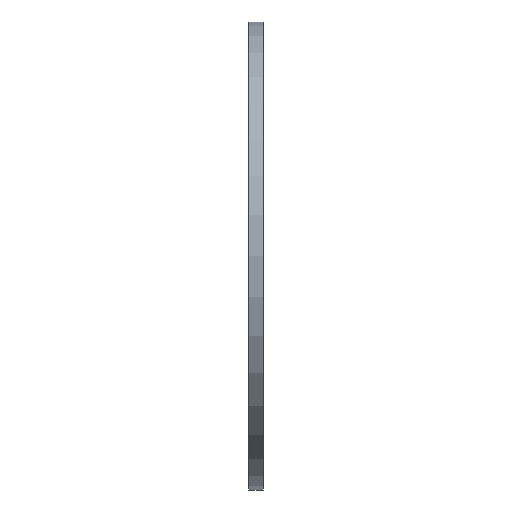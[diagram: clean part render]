
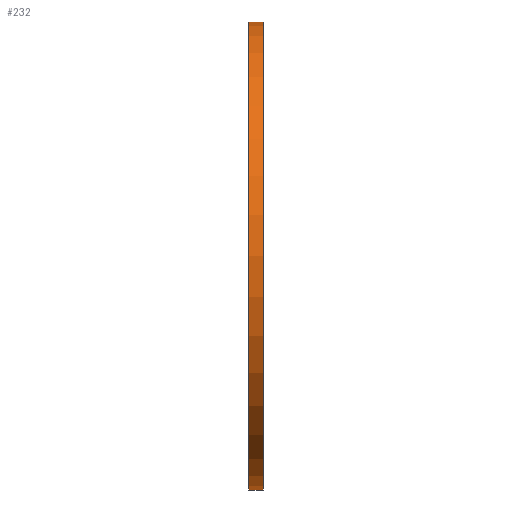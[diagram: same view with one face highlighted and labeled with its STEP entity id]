
A CAD part, left-side view. The second image highlights one B-rep face of the part: STEP entity #232.
In plain terms, the highlighted cylindrical face has radius 375 mm (diameter 750 mm), a partial arc.
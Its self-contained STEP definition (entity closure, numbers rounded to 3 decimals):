
#42 = EDGE_CURVE ( 'NONE', #1544, #1689, #639, .T. ) ;
#71 = LINE ( 'NONE', #906, #479 ) ;
#160 = VERTEX_POINT ( 'NONE', #953 ) ;
#232 = ADVANCED_FACE ( 'NONE', ( #819 ), #1514, .T. ) ;
#275 = EDGE_LOOP ( 'NONE', ( #1402, #787, #1495, #784 ) ) ;
#479 = VECTOR ( 'NONE', #921, 1000. ) ;
#562 = AXIS2_PLACEMENT_3D ( 'NONE', #1088, #807, #1494 ) ;
#584 = DIRECTION ( 'NONE',  ( 0., -1., 0. ) ) ;
#617 = CARTESIAN_POINT ( 'NONE',  ( 0., 0., 375. ) ) ;
#618 = CARTESIAN_POINT ( 'NONE',  ( 0., 0., 0. ) ) ;
#639 = CIRCLE ( 'NONE', #1790, 375. ) ;
#663 = DIRECTION ( 'NONE',  ( 0., -1., 0. ) ) ;
#694 = VECTOR ( 'NONE', #584, 1000. ) ;
#780 = EDGE_CURVE ( 'NONE', #160, #1689, #1671, .T. ) ;
#784 = ORIENTED_EDGE ( 'NONE', *, *, #42, .F. ) ;
#787 = ORIENTED_EDGE ( 'NONE', *, *, #1622, .T. ) ;
#793 = DIRECTION ( 'NONE',  ( 0., -1., 0. ) ) ;
#807 = DIRECTION ( 'NONE',  ( 0., -1., 0. ) ) ;
#819 = FACE_OUTER_BOUND ( 'NONE', #275, .T. ) ;
#906 = CARTESIAN_POINT ( 'NONE',  ( 0., 0., 375. ) ) ;
#921 = DIRECTION ( 'NONE',  ( 0., -1., 0. ) ) ;
#953 = CARTESIAN_POINT ( 'NONE',  ( 0., 24., -375. ) ) ;
#1088 = CARTESIAN_POINT ( 'NONE',  ( 0., 24., 0. ) ) ;
#1164 = VERTEX_POINT ( 'NONE', #1681 ) ;
#1212 = AXIS2_PLACEMENT_3D ( 'NONE', #1656, #663, #1217 ) ;
#1217 = DIRECTION ( 'NONE',  ( 0., 0., -1. ) ) ;
#1225 = CARTESIAN_POINT ( 'NONE',  ( 0., 0., -375. ) ) ;
#1259 = CARTESIAN_POINT ( 'NONE',  ( 0., 0., -375. ) ) ;
#1402 = ORIENTED_EDGE ( 'NONE', *, *, #1533, .F. ) ;
#1437 = DIRECTION ( 'NONE',  ( 0., 0., -1. ) ) ;
#1494 = DIRECTION ( 'NONE',  ( 0., 0., -1. ) ) ;
#1495 = ORIENTED_EDGE ( 'NONE', *, *, #780, .T. ) ;
#1514 = CYLINDRICAL_SURFACE ( 'NONE', #1212, 375. ) ;
#1533 = EDGE_CURVE ( 'NONE', #1164, #1544, #71, .T. ) ;
#1540 = CIRCLE ( 'NONE', #562, 375. ) ;
#1544 = VERTEX_POINT ( 'NONE', #617 ) ;
#1622 = EDGE_CURVE ( 'NONE', #1164, #160, #1540, .T. ) ;
#1656 = CARTESIAN_POINT ( 'NONE',  ( 0., 0., 0. ) ) ;
#1671 = LINE ( 'NONE', #1259, #694 ) ;
#1681 = CARTESIAN_POINT ( 'NONE',  ( 0., 24., 375. ) ) ;
#1689 = VERTEX_POINT ( 'NONE', #1225 ) ;
#1790 = AXIS2_PLACEMENT_3D ( 'NONE', #618, #793, #1437 ) ;
